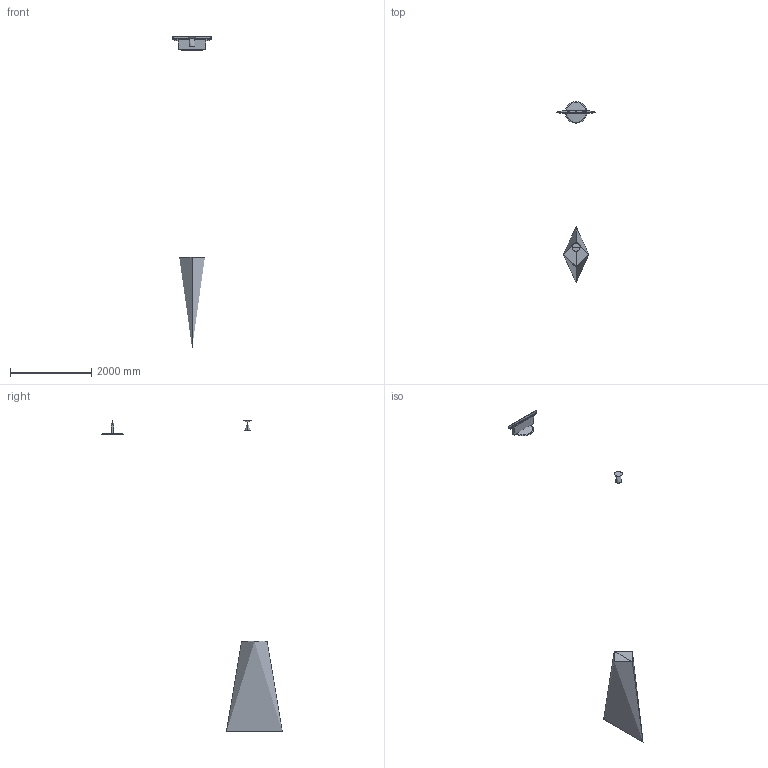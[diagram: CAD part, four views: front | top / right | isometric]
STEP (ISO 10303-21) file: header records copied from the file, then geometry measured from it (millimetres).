
FILE_DESCRIPTION(/* description */ (''),/* implementation_level */ '2;1');
FILE_NAME(/* name */ '1133',/* time_stamp */ '2022-01-18T14:55:22+01:00',/* author */ (''),/* organization */ (''),/* preprocessor_version */ 'ST-DEVELOPER v16.5',/* originating_system */ '',/* authorisation */ '');
FILE_SCHEMA (('CONFIG_CONTROL_DESIGN'));
Length unit declared in the file: centimetre
Products named in the file (1): Document
Bounding box: 972.62 x 4451.34 x 7689.63 mm (x, y, z)
Volume: 353340943.6 mm3; surface area: 19338405.5 mm2
Topology: 3 solids, 3 shells, 58 faces, 139 edges, 90 vertices
Faces by surface type: cylinder 31, plane 15, bspline 12
Entity records: 1961 total; most frequent: CARTESIAN_POINT 990, ORIENTED_EDGE 264, EDGE_CURVE 132, VERTEX_POINT 86, EDGE_LOOP 74, ADVANCED_FACE 58, FACE_OUTER_BOUND 58, DIRECTION 53
